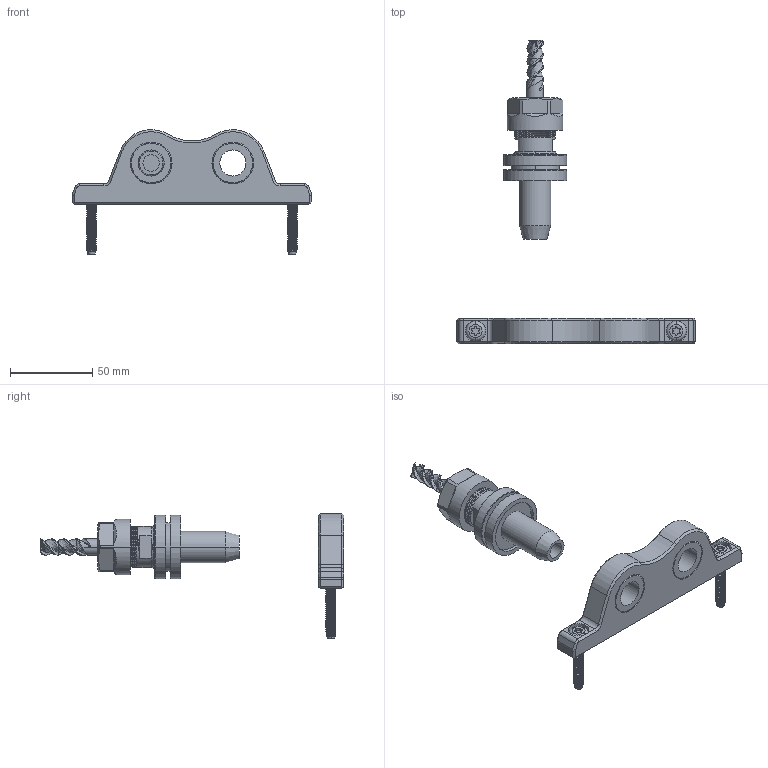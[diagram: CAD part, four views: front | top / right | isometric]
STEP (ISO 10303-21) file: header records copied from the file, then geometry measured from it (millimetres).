
FILE_DESCRIPTION((''),'2;1');
FILE_NAME('LBL094_ASM','2022-03-22T12:41:12',('Tim'),(''),'CREO PARAMETRIC BY PTC INC, 2021164','CREO PARAMETRIC BY PTC INC, 2021164','');
FILE_SCHEMA(('CONFIG_CONTROL_DESIGN'));
Length unit declared in the file: inch
Products named in the file (10): LBL095; RC121610; ER20_NUT_V2; TORMACH_TTS_TOOLHOLDER_V2; ER20_V4; 3_FLUTE_FLAT_ENDMILL_FI10_V2; TTS_ER20_V6_ASM; TTS_ER20_ASM; MC94209A715; LBL094_ASM
Assembly tree (11 placements, depth 4):
  LBL094_ASM
    LBL095
    RC121610  x2
    TTS_ER20_ASM
      TTS_ER20_V6_ASM
        ER20_NUT_V2
        TORMACH_TTS_TOOLHOLDER_V2
        ER20_V4
        3_FLUTE_FLAT_ENDMILL_FI10_V2
    MC94209A715  x2
Bounding box: 146.05 x 185.03 x 75.94 mm (x, y, z)
Volume: 110441.4 mm3; surface area: 49017.8 mm2
Topology: 9 solids, 9 shells, 1163 faces, 3285 edges, 2153 vertices
Faces by surface type: cylinder 661, plane 199, bspline 165, cone 72, torus 60, extrusion 6
Entity records: 46360 total; most frequent: CARTESIAN_POINT 27053, ORIENTED_EDGE 4566, DIRECTION 3172, EDGE_CURVE 2283, VERTEX_POINT 1499, AXIS2_PLACEMENT_3D 1171, B_SPLINE_CURVE_WITH_KNOTS 1017, EDGE_LOOP 836
